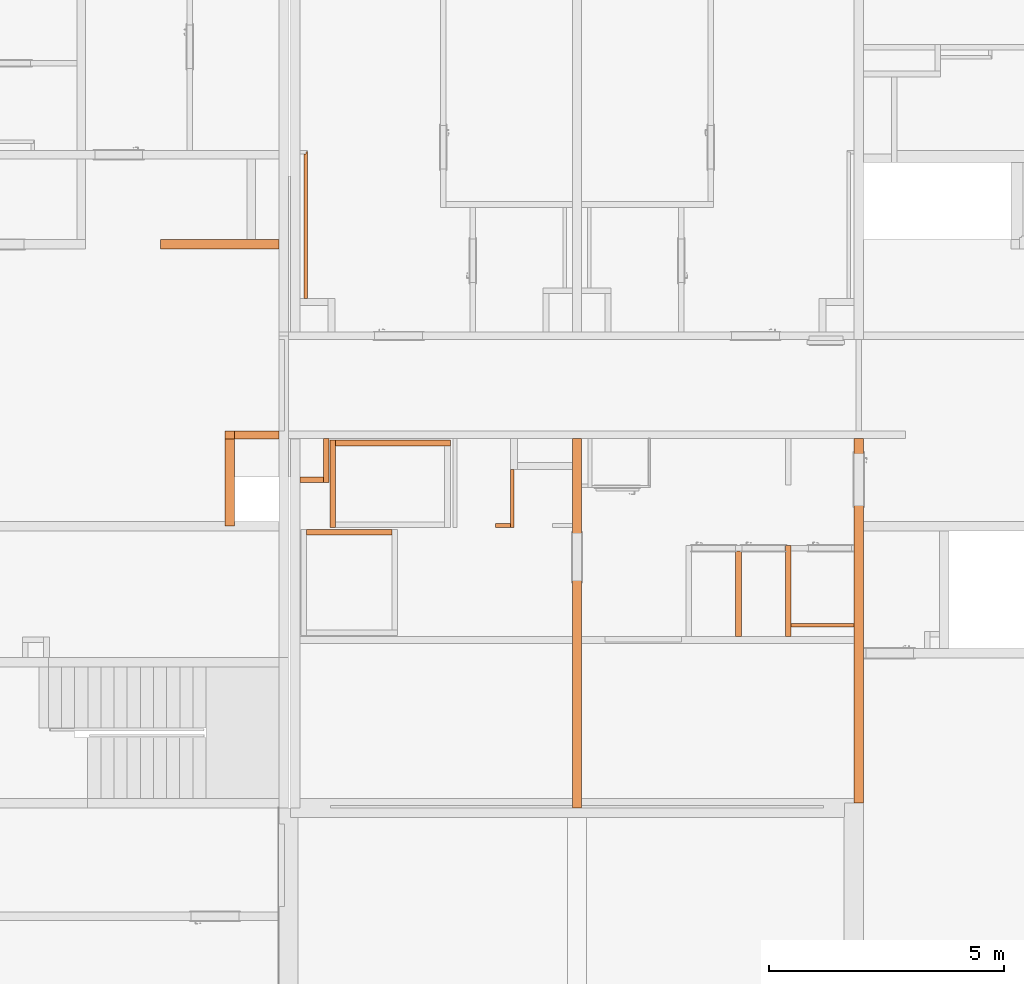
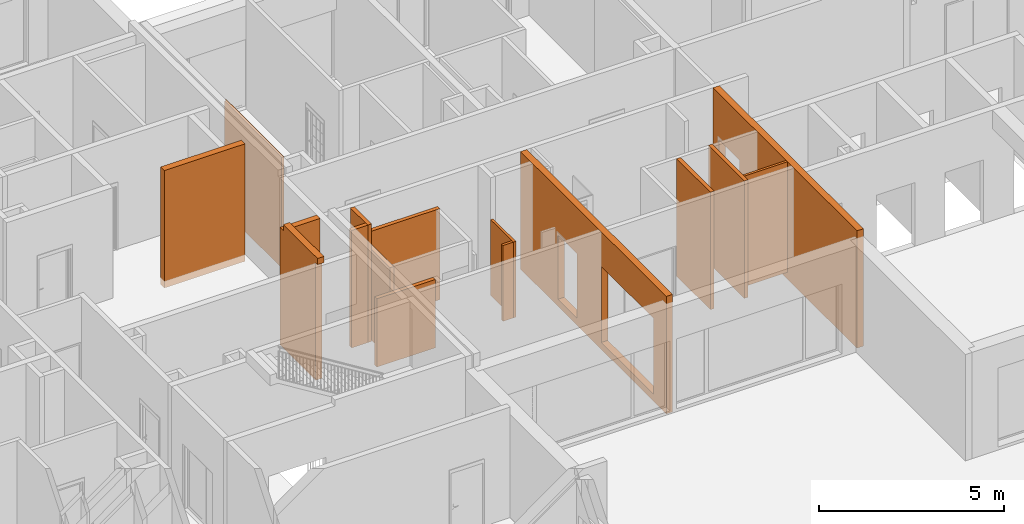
# One storey, part 33 of 46: 16 proxies, 3 openings.
"""IFC2X3 building model written with IfcOpenShell, lengths in millimetres."""

from ifc_helpers import new_model, entity, si_unit, converted_unit, derived_unit, money_unit, direction, frame, origin_with_axes, origin_2d_with_axis, place, context, subcontext, project, spatial, rectangle, extrude, faceted_brep, material, material_list, type_object, element, save


model = new_model("IFC2X3")

# Units and contexts
model_context = context("Model", 3, precision=0.01, world=origin_with_axes(), true_north=direction((0.34421633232, 0.938890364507)))
body_context = subcontext(model_context, "Body", "Model", "MODEL_VIEW")
ifc_project = project(units=[si_unit("LENGTHUNIT", "METRE", prefix="MILLI"), si_unit("AREAUNIT", "SQUARE_METRE"), si_unit("VOLUMEUNIT", "CUBIC_METRE"), converted_unit("PLANEANGLEUNIT", "DEGREE", entity("IfcPlaneAngleMeasure", 0.0174532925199), si_unit("PLANEANGLEUNIT", "RADIAN"), dimensions=[0, 0, 0, 0, 0, 0, 0]), si_unit("SOLIDANGLEUNIT", "STERADIAN"), money_unit("USD"), converted_unit("TIMEUNIT", "Year", entity("IfcTimeMeasure", 31556926.0), si_unit("TIMEUNIT", "SECOND"), dimensions=[0, 0, 1, 0, 0, 0, 0]), si_unit("MASSUNIT", "GRAM", prefix="KILO"), si_unit("THERMODYNAMICTEMPERATUREUNIT", "DEGREE_CELSIUS"), si_unit("LUMINOUSINTENSITYUNIT", "LUMEN"), si_unit("ENERGYUNIT", "JOULE", prefix="MEGA"), derived_unit("THERMALCONDUCTANCEUNIT", [(si_unit("POWERUNIT", "WATT"), 1), (si_unit("LENGTHUNIT", "METRE"), -1), (si_unit("THERMODYNAMICTEMPERATUREUNIT", "KELVIN"), -1)]), derived_unit("SPECIFICHEATCAPACITYUNIT", [(si_unit("ENERGYUNIT", "JOULE"), 1), (si_unit("MASSUNIT", "GRAM", prefix="KILO"), -1), (si_unit("THERMODYNAMICTEMPERATUREUNIT", "KELVIN"), -1)]), derived_unit("MASSDENSITYUNIT", [(si_unit("MASSUNIT", "GRAM", prefix="KILO"), 1), (si_unit("VOLUMEUNIT", "CUBIC_METRE"), -1)])], contexts=[model_context])

# Site, building, storey
site_placement = place(None, origin_with_axes())
site = spatial("IfcSite", under=ifc_project, at=site_placement, Name="USTRONIE MORSKIE", CompositionType="ELEMENT")
building_placement = place(site_placement, origin_with_axes())
building = spatial("IfcBuilding", under=site, at=building_placement, Name="Budynek", CompositionType="ELEMENT")
storey_placement = place(building_placement, origin_with_axes())
storey = spatial("IfcBuildingStorey", under=building, at=storey_placement, Name="PARTER", CompositionType="ELEMENT", Elevation=0.0)

# Proxies
ifc_material_1 = material(Name="Bloczki silikatowe")
building_element_proxy_type_1 = type_object("IfcBuildingElementProxyType", Name="Bloczki silikatowe 120", PredefinedType="NOTDEFINED")
proxy_1_placement = place(storey_placement, frame((367977.921941, 734751.199036, -229.999731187), z_axis=(0.0, 0.0, 1.0), x_axis=(0.0, -1.0, 0.0)))
element("IfcBuildingElementProxy", 1, at=proxy_1_placement, inside=storey, type_object=building_element_proxy_type_1, material=ifc_material_1, Name="Œciana-007", context=body_context, shape_type="Brep", body=[
    faceted_brep([(1020.01817887, 60.0, 0.0), (1020.01817887, -60.0, 0.0), (80.0, -60.0, 0.0), (80.0, 60.0, 0.0), (1020.01817887, 60.0, 3869.99973119), (1020.01817887, -60.0, 3869.99973119), (80.0, -60.0, 3869.99973119), (80.0, 60.0, 3869.99973119)], [[[0, 1, 2, 3]], [[1, 0, 4, 5]], [[1, 5, 6, 2]], [[7, 3, 2, 6]], [[4, 0, 3, 7]], [[5, 4, 7, 6]]]),
])
proxy_2_placement = place(storey_placement, frame((377817.920919, 730376.199036, -230.0), z_axis=(0.0, 0.0, 1.0), x_axis=(0.0, 1.0, 0.0)))
element("IfcBuildingElementProxy", 2, at=proxy_2_placement, inside=storey, type_object=building_element_proxy_type_1, material=ifc_material_1, Name="SW-04", context=body_context, shape_type="Brep", body=[
    faceted_brep([(75.0, 60.0, 0.0), (2015.0, 60.0, 0.0), (2015.0, -60.0, 0.0), (75.0, -60.0, 0.0), (75.0, 60.0, 3870.0), (2015.0, 60.0, 3870.0), (2015.0, -60.0, 3870.0), (75.0, -60.0, 3870.0)], [[[0, 1, 2, 3]], [[4, 5, 1, 0]], [[6, 2, 1, 5]], [[3, 2, 6, 7]], [[7, 4, 0, 3]], [[7, 6, 5, 4]]]),
])
proxy_3_placement = place(storey_placement, frame((376757.920919, 730376.199036, -230.0), z_axis=(0.0, 0.0, 1.0), x_axis=(0.0, 1.0, 0.0)))
element("IfcBuildingElementProxy", 3, at=proxy_3_placement, inside=storey, type_object=building_element_proxy_type_1, material=ifc_material_1, Name="SW-04", context=body_context, shape_type="Brep", body=[
    faceted_brep([(1895.0, 60.0, 0.0), (1895.0, -60.0, 0.0), (75.0, -60.0, 0.0), (75.0, 60.0, 0.0), (1895.0, 60.0, 3870.0), (1895.0, -60.0, 3870.0), (75.0, -60.0, 3870.0), (75.0, 60.0, 3870.0)], [[[0, 1, 2, 3]], [[1, 0, 4, 5]], [[1, 5, 6, 2]], [[7, 3, 2, 6]], [[4, 0, 3, 7]], [[5, 4, 7, 6]]]),
])
proxy_4_placement = place(storey_placement, frame((367317.920919, 733791.180857, -229.999731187), z_axis=(0.0, 0.0, 1.0), x_axis=(1.0, 0.0, 0.0)))
element("IfcBuildingElementProxy", 4, at=proxy_4_placement, inside=storey, type_object=building_element_proxy_type_1, material=ifc_material_1, Name="Œciana-007", context=body_context, shape_type="Brep", body=[
    faceted_brep([(600.001021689, -59.9999999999, 3869.99973119), (600.001021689, 59.9999999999, 3869.99973119), (100.0, 59.9999999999, 3869.99973119), (100.0, -59.9999999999, 3869.99973119), (600.001021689, -59.9999999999, 0.0), (600.001021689, 59.9999999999, 0.0), (100.0, 59.9999999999, 0.0), (100.0, -59.9999999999, 0.0)], [[[0, 1, 2, 3]], [[1, 0, 4, 5]], [[1, 5, 6, 2]], [[7, 3, 2, 6]], [[4, 0, 3, 7]], [[5, 4, 7, 6]]]),
])
proxy_5_placement = place(storey_placement, frame((368057.921941, 732771.199036, -230.0), z_axis=(0.0, 0.0, 1.0), x_axis=(0.0, 1.0, 0.0)))
element("IfcBuildingElementProxy", 5, at=proxy_5_placement, inside=storey, type_object=building_element_proxy_type_1, material=ifc_material_1, Name="SW-04", context=body_context, shape_type="Brep", body=[
    faceted_brep([(1860.0, -120.0, 3000.0), (1860.0, -4.54747350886e-10, 3000.0), (0.0, 0.0, 3000.0), (0.0, -120.0, 3000.0), (1860.0, -120.0, 0.0), (1860.0, -4.54747350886e-10, 0.0), (0.0, 0.0, 0.0), (0.0, -120.0, 0.0)], [[[0, 1, 2, 3]], [[1, 0, 4, 5]], [[1, 5, 6, 2]], [[7, 3, 2, 6]], [[4, 0, 3, 7]], [[5, 4, 7, 6]]]),
])
proxy_6_placement = place(storey_placement, frame((368057.921941, 734631.199036, -229.999731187), z_axis=(0.0, 0.0, 1.0), x_axis=(1.0, 0.0, 0.0)))
element("IfcBuildingElementProxy", 6, at=proxy_6_placement, inside=storey, type_object=building_element_proxy_type_1, material=ifc_material_1, Name="SW-04", context=body_context, shape_type="Brep", body=[
    faceted_brep([(2560.0, -120.000000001, 3000.0), (2560.0, -7.95807864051e-10, 3000.0), (120.0, -1.13686837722e-10, 3000.0), (120.0, -120.0, 3000.0), (2560.0, -120.000000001, 0.0), (2560.0, -7.95807864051e-10, 0.0), (120.0, -1.13686837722e-10, 0.0), (120.0, -120.0, 0.0)], [[[0, 1, 2, 3]], [[1, 0, 4, 5]], [[1, 5, 6, 2]], [[7, 3, 2, 6]], [[4, 0, 3, 7]], [[5, 4, 7, 6]]]),
])
proxy_7_placement = place(storey_placement, frame((369497.920919, 732731.199036, -229.999731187), z_axis=(0.0, 0.0, 1.0), x_axis=(-1.0, 0.0, 0.0)))
element("IfcBuildingElementProxy", 7, at=proxy_7_placement, inside=storey, type_object=building_element_proxy_type_1, material=ifc_material_1, Name="SW-04", context=body_context, shape_type="Brep", body=[
    faceted_brep([(1940.0, 120.000000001, 0.0), (1940.0, 5.68434188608e-10, 0.0), (120.0, 0.0, 0.0), (120.0, 120.0, 0.0), (1940.0, 120.000000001, 2249.99973119), (1940.0, 5.68434188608e-10, 2249.99973119), (120.0, 0.0, 2249.99973119), (120.0, 120.0, 2249.99973119)], [[[0, 1, 2, 3]], [[1, 0, 4, 5]], [[1, 5, 6, 2]], [[7, 3, 2, 6]], [[4, 0, 3, 7]], [[5, 4, 7, 6]]]),
])
building_element_proxy_type_2 = type_object("IfcBuildingElementProxyType", Name="Bloczki silikatowe 180", PredefinedType="NOTDEFINED")
proxy_8_placement = place(storey_placement, frame((365917.925671, 734741.199036, -230.0), z_axis=(0.0, 0.0, 1.0), x_axis=(1.0, 0.0, 0.0)))
element("IfcBuildingElementProxy", 8, at=proxy_8_placement, inside=storey, type_object=building_element_proxy_type_2, material=ifc_material_1, Name="SW-02", context=body_context, shape_type="Brep", body=[
    faceted_brep([(1049.9952481, -90.0, 3870.0), (1049.9952481, 90.0, 3870.0), (100.000453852, 90.0, 3870.0), (99.9995461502, -90.0, 3870.0), (1049.9952481, -90.0, 0.0), (1049.9952481, 90.0, 0.0), (100.000453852, 90.0, 0.0), (99.9995461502, -90.0, 0.0)], [[[0, 1, 2, 3]], [[1, 0, 4, 5]], [[1, 5, 6, 2]], [[7, 3, 2, 6]], [[4, 0, 3, 7]], [[5, 4, 7, 6]]]),
])
ifc_material_2 = material(Name="-Pustka powietrzna")
ifc_material_3 = material(Name="Płyta GK")
ifc_material_list_1 = material_list([ifc_material_2, ifc_material_3, ifc_material_3])
building_element_proxy_type_3 = type_object("IfcBuildingElementProxyType", Name="330-SD GK 2-warstwy 75", PredefinedType="NOTDEFINED")
proxy_9_placement = place(storey_placement, frame((367547.898799, 737501.202288, -180.0), z_axis=(0.0, 0.0, 1.0), x_axis=(0.0, 1.0, 0.0)))
element("IfcBuildingElementProxy", 9, at=proxy_9_placement, inside=storey, type_object=building_element_proxy_type_3, material=ifc_material_list_1, Name="Ściana-009", context=body_context, shape_type="Brep", body=[
    faceted_brep([(150.0, 0.0, 180.0), (3220.00000001, 0.0, 180.0), (3220.00000001, 0.0, 3820.0), (150.0, 0.0, 3820.0), (3220.00000001, 50.0, 180.0), (150.0, 50.0, 180.0), (3220.00000001, 50.0, 3820.0), (150.0, 50.0, 3820.0)], [[[0, 1, 2, 3]], [[4, 1, 0, 5]], [[1, 4, 6, 2]], [[6, 7, 3, 2]], [[5, 0, 3, 7]], [[4, 5, 7, 6]]]),
    faceted_brep([(150.0, -12.5, 165.0), (3270.00000001, -12.5, 165.0), (3270.00000001, -12.5, 3820.0), (150.0, -12.5, 3820.0), (3270.00000001, 0.0, 165.0), (150.0, 0.0, 165.0), (3270.00000001, 0.0, 3820.0), (150.0, 0.0, 3820.0)], [[[0, 1, 2, 3]], [[4, 1, 0, 5]], [[1, 4, 6, 2]], [[6, 7, 3, 2]], [[5, 0, 3, 7]], [[4, 5, 7, 6]]]),
    faceted_brep([(150.0, -25.0, 165.0), (3282.50000001, -25.0, 165.0), (3282.50000001, -25.0, 3820.0), (150.0, -25.0, 3820.0), (3282.50000001, -12.5, 165.0), (150.0, -12.5, 165.0), (3282.50000001, -12.5, 3820.0), (150.0, -12.5, 3820.0)], [[[0, 1, 2, 3]], [[4, 1, 0, 5]], [[1, 4, 6, 2]], [[6, 7, 3, 2]], [[5, 0, 3, 7]], [[4, 5, 7, 6]]]),
])
ifc_material_list_2 = material_list([ifc_material_3, ifc_material_3, ifc_material_2])
proxy_10_placement = place(storey_placement, frame((377817.920919, 730676.199036, -180.0), z_axis=(0.0, 0.0, 1.0), x_axis=(1.0, 0.0, 0.0)))
element("IfcBuildingElementProxy", 10, at=proxy_10_placement, inside=storey, type_object=building_element_proxy_type_3, material=ifc_material_list_2, Name="Ściana-009", context=body_context, shape_type="Brep", body=[
    faceted_brep([(1400.0, 37.5, 165.0), (1400.0, 50.0, 165.0), (1400.0, 50.0, 3820.0), (1400.0, 37.5, 3820.0), (60.0, 50.0, 165.0), (60.0, 37.5, 165.0), (60.0, 50.0, 3820.0), (60.0, 37.5, 3820.0)], [[[0, 1, 2, 3]], [[4, 1, 0, 5]], [[1, 4, 6, 2]], [[3, 2, 6, 7]], [[5, 0, 3, 7]], [[4, 5, 7, 6]]]),
    faceted_brep([(1400.0, 25.0, 165.0), (1400.0, 37.5, 165.0), (1400.0, 37.5, 3820.0), (1400.0, 25.0, 3820.0), (60.0, 37.5, 165.0), (60.0, 25.0, 165.0), (60.0, 37.5, 3820.0), (60.0, 25.0, 3820.0)], [[[0, 1, 2, 3]], [[4, 1, 0, 5]], [[1, 4, 6, 2]], [[3, 2, 6, 7]], [[5, 0, 3, 7]], [[4, 5, 7, 6]]]),
    faceted_brep([(1400.0, -25.0, 180.0), (1400.0, 25.0, 180.0), (1400.0, 25.0, 3820.0), (1400.0, -25.0, 3820.0), (60.0, 25.0, 180.0), (60.0, -25.0, 180.0), (60.0, 25.0, 3820.0), (60.0, -25.0, 3820.0)], [[[0, 1, 2, 3]], [[4, 1, 0, 5]], [[1, 4, 6, 2]], [[3, 2, 6, 7]], [[5, 0, 3, 7]], [[4, 5, 7, 6]]]),
])
building_element_proxy_type_4 = type_object("IfcBuildingElementProxyType", Name="Bloczki silikatowe 80", PredefinedType="NOTDEFINED")
proxy_11_placement = place(storey_placement, frame((371937.920919, 732811.199036, -229.999731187), z_axis=(0.0, 0.0, 1.0), x_axis=(-1.0, 0.0, 0.0)))
element("IfcBuildingElementProxy", 11, at=proxy_11_placement, inside=storey, type_object=building_element_proxy_type_4, material=ifc_material_1, Name="Œciana-007", context=body_context, shape_type="Brep", body=[
    faceted_brep([(40.0, 40.0, 0.0), (360.0, 40.0, 0.0), (360.0, -40.0, 0.0), (40.0, -40.0, 0.0), (40.0, 40.0, 2500.0), (360.0, 40.0, 2500.0), (360.0, -40.0, 2500.0), (40.0, -40.0, 2500.0)], [[[0, 1, 2, 3]], [[4, 5, 1, 0]], [[2, 1, 5, 6]], [[3, 2, 6, 7]], [[4, 0, 3, 7]], [[7, 6, 5, 4]]]),
])
proxy_12_placement = place(storey_placement, frame((371937.920919, 734001.201884, -229.999731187), z_axis=(0.0, 0.0, 1.0), x_axis=(0.0, -1.0, 0.0)))
element("IfcBuildingElementProxy", 12, at=proxy_12_placement, inside=storey, type_object=building_element_proxy_type_4, material=ifc_material_1, Name="Œciana-007", context=body_context, shape_type="Brep", body=[
    faceted_brep([(1230.00284817, -40.0, 2500.0), (1230.00284817, 40.0, 2500.0), (0.0, 40.0, 2500.0), (0.0, -40.0, 2500.0), (1230.00284817, -40.0, 0.0), (1230.00284817, 40.0, 0.0), (0.0, 40.0, 0.0), (0.0, -40.0, 0.0)], [[[0, 1, 2, 3]], [[1, 0, 4, 5]], [[1, 5, 6, 2]], [[7, 3, 2, 6]], [[4, 0, 3, 7]], [[5, 4, 7, 6]]]),
])
ifc_material_4 = material(Name="Beton konstrukcyjny B25")
building_element_proxy_type_5 = type_object("IfcBuildingElementProxyType", Name="Beton konstrukcyjny B25 200", PredefinedType="NOTDEFINED")
proxy_13_placement = place(storey_placement, frame((365917.915888, 732801.198834, -250.0), z_axis=(0.0, 0.0, 1.0), x_axis=(5.04278977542e-06, 0.999999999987, 0.0)))
element("IfcBuildingElementProxy", 13, at=proxy_13_placement, inside=storey, type_object=building_element_proxy_type_5, material=ifc_material_4, Name="SW-01", context=body_context, shape_type="Brep", body=[
    faceted_brep([(2029.99969784, 100.0, 3890.0), (1940.00020212, 100.0, 3890.0), (1940.00020212, -100.0, 3890.0), (2030.0007064, -100.0, 3890.0), (1849.99969784, 100.0, 4090.0), (1849.99969784, 100.0, 3890.0), (2029.99969784, 100.0, 20.0), (1940.00020212, 100.0, 20.0), (99.9996978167, 100.0, 20.0), (99.9996978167, 100.0, 3890.0), (1.13686837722e-10, 100.0, 3890.0), (1.13686837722e-10, 100.0, 4090.0), (1850.0007064, -100.0, 3890.0), (1850.0007064, -100.0, 4090.0), (0.0, -100.0, 4090.0), (0.0, -100.0, 3890.0), (100.000706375, -100.0, 3890.0), (100.000706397, -100.004526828, 20.0), (1940.00020212, -100.0, 20.0), (2030.0007064, -100.0, 20.0)], [[[0, 1, 2, 3]], [[4, 5, 1, 0, 6, 7, 8, 9, 10, 11]], [[5, 12, 2, 1]], [[2, 12, 13, 14, 15, 16, 17, 18, 19, 3]], [[3, 19, 6, 0]], [[5, 4, 13, 12]], [[19, 18, 7, 6]], [[8, 7, 18, 17]], [[9, 8, 17, 16]], [[10, 9, 16, 15]], [[14, 11, 10, 15]], [[14, 13, 4, 11]]]),
])

# Proxy, opening
proxy_14_placement = place(storey_placement, frame((379317.920919, 726901.199036, -229.999387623), z_axis=(0.0, 0.0, 1.0), x_axis=(0.0, 1.0, 0.0)))
proxy_14 = element("IfcBuildingElementProxy", 14, at=proxy_14_placement, inside=storey, type_object=building_element_proxy_type_5, material=ifc_material_4, Name="SW-01", context=body_context, shape_type="Brep", body=[
    faceted_brep([(7770.0, -100.0, -0.000348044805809), (7770.0, -100.0, 3869.99938762), (0.0, -100.0, 3869.99938762), (0.0, -100.0, 0.0), (7770.0, 100.0, -0.000348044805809), (7770.0, 100.0, 3869.99938762), (0.0, 100.0, 3869.99938762), (0.0, 100.0, 0.0)], [[[0, 1, 2, 3]], [[4, 5, 1, 0]], [[2, 1, 5, 6]], [[3, 2, 6, 7]], [[7, 4, 0, 3]], [[6, 5, 4, 7]]]),
])
opening_1_placement = place(proxy_14_placement, frame((6890.0, 0.0, 229.999387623), z_axis=(0.0, 0.0, 1.0), x_axis=(1.0, 0.0, 0.0)))
element("IfcOpeningElement", 15, at=opening_1_placement, cuts=proxy_14, Name="Dw.2", context=body_context, shape_type="SweptSolid", body=[
    extrude(rectangle(XDim=1120.0, YDim=2120.0, at=origin_2d_with_axis()), frame((0.0, 200.0, 1060.0), z_axis=(0.0, -1.0, 0.0), x_axis=(-1.0, 0.0, 0.0)), (0.0, 0.0, 1.0), 600.0),
    extrude(rectangle(XDim=1194.0, YDim=2227.0, at=origin_2d_with_axis()), frame((0.0, 100.0, 1113.5), z_axis=(0.0, -1.0, 0.0), x_axis=(-1.0, 0.0, 0.0)), (0.0, 0.0, -1.0), 200.0),
    extrude(rectangle(XDim=1194.0, YDim=2227.0, at=origin_2d_with_axis()), frame((0.0, -100.0, 1113.5), z_axis=(0.0, 1.0, 0.0), x_axis=(-1.0, 0.0, 0.0)), (0.0, 0.0, -1.0), 200.0),
])

# Proxy
proxy_15_placement = place(storey_placement, frame((364447.920874, 738801.199036, -230.0), z_axis=(0.0, 0.0, 1.0), x_axis=(1.0, 0.0, 0.0)))
element("IfcBuildingElementProxy", 16, at=proxy_15_placement, inside=storey, type_object=building_element_proxy_type_5, material=ifc_material_4, Name="SW-01", context=body_context, shape_type="Brep", body=[
    faceted_brep([(2520.00004519, 100.0, 0.0), (2520.00004519, -100.0, 0.0), (0.0, -100.0, 0.0), (0.0, 100.0, 0.0), (2520.00004519, 100.0, 3870.0), (2520.00004519, -100.0, 3870.0), (0.0, -100.0, 3870.0), (0.0, 100.0, 3870.0)], [[[0, 1, 2, 3]], [[1, 0, 4, 5]], [[1, 5, 6, 2]], [[7, 3, 2, 6]], [[4, 0, 3, 7]], [[5, 4, 7, 6]]]),
])

# Proxy, openings
proxy_16_placement = place(storey_placement, frame((373317.920919, 726901.199036, -229.999731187), z_axis=(0.0, 0.0, 1.0), x_axis=(0.0, 1.0, 0.0)))
proxy_16 = element("IfcBuildingElementProxy", 17, at=proxy_16_placement, inside=storey, type_object=building_element_proxy_type_5, material=ifc_material_4, Name="SW-01", context=body_context, shape_type="Brep", body=[
    faceted_brep([(7770.0, -100.0, 3869.99973119), (7770.0, 100.0, 3869.99973119), (-100.0, 100.0, 3869.99973119), (-100.0, -100.0, 3869.99973119), (7770.0, -100.0, -8.38024999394e-06), (7770.0, 100.0, -8.38024999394e-06), (-100.0, 100.0, -0.000268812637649), (-100.0, -100.0, -0.000268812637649)], [[[0, 1, 2, 3]], [[4, 5, 1, 0]], [[5, 6, 2, 1]], [[6, 7, 3, 2]], [[4, 0, 3, 7]], [[5, 4, 7, 6]]]),
])
opening_2_placement = place(proxy_16_placement, frame((2000.0, 0.0, 229.999731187), z_axis=(0.0, 0.0, 1.0), x_axis=(1.0, 0.0, 0.0)))
element("IfcOpeningElement", 18, at=opening_2_placement, cuts=proxy_16, Name="xx", context=body_context, shape_type="SweptSolid", body=[
    extrude(rectangle(XDim=2800.0, YDim=2500.0, at=origin_2d_with_axis()), frame((0.0, 100.0, 1250.0), z_axis=(0.0, -1.0, 0.0), x_axis=(1.0, 0.0, 0.0)), (0.0, 0.0, -1.0), 200.0),
    extrude(rectangle(XDim=2800.0, YDim=2500.0, at=origin_2d_with_axis()), frame((0.0, 100.0, 1250.0), z_axis=(0.0, 1.0, 0.0), x_axis=(1.0, 0.0, 0.0)), (0.0, 0.0, -1.0), 200.0),
])
opening_3_placement = place(proxy_16_placement, frame((5240.0, 0.0, 229.999731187), z_axis=(0.0, 0.0, 1.0), x_axis=(1.0, 0.0, 0.0)))
element("IfcOpeningElement", 19, at=opening_3_placement, cuts=proxy_16, context=body_context, shape_type="SweptSolid", body=[
    extrude(rectangle(XDim=1020.0, YDim=2120.0, at=origin_2d_with_axis()), frame((0.0, -200.0, 1060.0), z_axis=(0.0, 1.0, 0.0), x_axis=(-1.0, 0.0, 0.0)), (0.0, 0.0, 1.0), 600.0),
    extrude(rectangle(XDim=1094.0, YDim=2227.0, at=origin_2d_with_axis()), frame((0.0, -100.0, 1113.5), z_axis=(0.0, 1.0, 0.0), x_axis=(-1.0, 0.0, 0.0)), (0.0, 0.0, -1.0), 200.0),
    extrude(rectangle(XDim=1094.0, YDim=2227.0, at=origin_2d_with_axis()), frame((0.0, 100.0, 1113.5), z_axis=(0.0, -1.0, 0.0), x_axis=(-1.0, 0.0, 0.0)), (0.0, 0.0, -1.0), 200.0),
])

save(model, "model.ifc")
